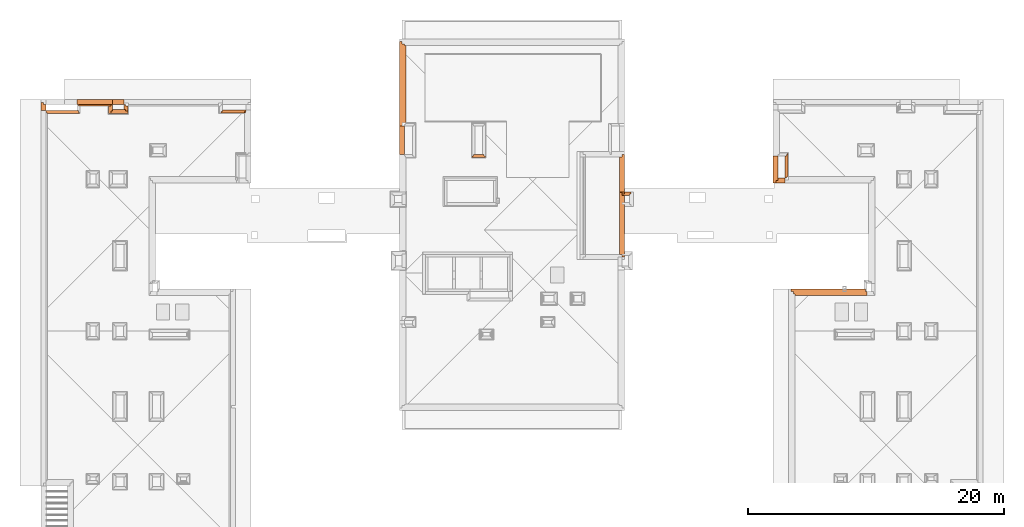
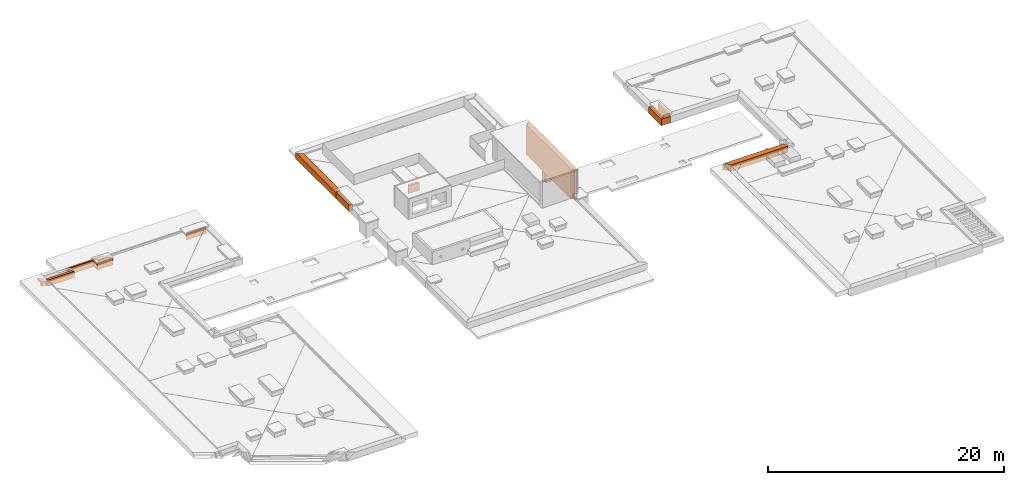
# One storey, part 12 of 16: 17 proxies.
"""IFC2X3 building model written with IfcOpenShell, lengths in millimetres."""

import ifcopenshell
import ifcopenshell.guid

model = None  # the IFC model being written
_history = None  # IfcOwnerHistory: only IFC2X3 demands one
_inside = {}  # id of a spatial element -> (the spatial element, [elements in it])
_under = {}  # id of a project, library or spatial element -> (it, [spatial elements below it])
_declared = {}  # id of a project -> (the project, [libraries it declares])
_typed = {}  # id of a type object -> (the type object, [elements of that type])
_made_of = {}  # id of a material, layer set ... -> (it, [elements and type objects made of it])


def new_model(schema):
    """Start an empty IFC model of exactly this schema.

    Asked for "IFC4X3", IfcOpenShell would pick the latest addendum, in which some entities
    have other attributes; the version numbers below select the first issue.
    IFC2X3 requires an IfcOwnerHistory on every rooted entity: one is made here for all.
    """
    global model, _history
    if schema == "IFC4X3":
        model = ifcopenshell.file(schema_version=(4, 3, 0, 0))
    else:
        model = ifcopenshell.file(schema=schema)
    _inside.clear()
    _under.clear()
    _declared.clear()
    _typed.clear()
    _made_of.clear()
    _history = None
    if model.schema == "IFC2X3":
        org = make("IfcOrganization", Name="unknown")
        user = make(
            "IfcPersonAndOrganization",
            ThePerson=make("IfcPerson", FamilyName="unknown"),
            TheOrganization=org,
        )
        app = make(
            "IfcApplication",
            ApplicationDeveloper=org,
            Version="unknown",
            ApplicationFullName="unknown",
            ApplicationIdentifier="unknown",
        )
        _history = make(
            "IfcOwnerHistory",
            OwningUser=user,
            OwningApplication=app,
            ChangeAction="ADDED",
            CreationDate=0,
        )
    return model


def make(cls, **values):
    """One entity of the class cls with the attributes given. An attribute that is None is left unset."""
    return model.create_entity(
        cls, **{name: value for name, value in values.items() if value is not None}
    )


def entity(cls, *values):
    """Any entity or typed value of the class cls, its attributes in the order of the schema. None: left unset."""
    e = model.create_entity(cls)
    for i, value in enumerate(values):
        if value is not None:
            e[i] = value
    return e


def rooted(cls, **values):
    """An entity with a GlobalId (a new one), such as an element, a storey or a relation."""
    return make(cls, GlobalId=ifcopenshell.guid.new(), OwnerHistory=_history, **values)


def si_unit(unit_type, name, prefix=None):
    """IfcSIUnit, for example si_unit("LENGTHUNIT", "METRE", prefix="MILLI")."""
    return make("IfcSIUnit", UnitType=unit_type, Prefix=prefix, Name=name)


def converted_unit(unit_type, name, factor, base, dimensions=None, offset=None):
    """IfcConversionBasedUnit, such as the inch: factor (a typed value) times the base unit."""
    return make(
        "IfcConversionBasedUnit"
        if offset is None
        else "IfcConversionBasedUnitWithOffset",
        ConversionOffset=offset,
        Dimensions=None
        if dimensions is None
        else entity("IfcDimensionalExponents", *dimensions),
        UnitType=unit_type,
        Name=name,
        ConversionFactor=make(
            "IfcMeasureWithUnit", ValueComponent=factor, UnitComponent=base
        ),
    )


def derived_unit(unit_type, elements):
    """IfcDerivedUnit: a product of units, each with its exponent."""
    return make(
        "IfcDerivedUnit",
        Elements=[
            make("IfcDerivedUnitElement", Unit=unit, Exponent=power)
            for unit, power in elements
        ],
        UnitType=unit_type,
    )


def money_unit(currency):
    """IfcMonetaryUnit."""
    return make("IfcMonetaryUnit", Currency=currency)


def assignment(units):
    """IfcUnitAssignment: the units of a project."""
    return None if units is None else make("IfcUnitAssignment", Units=units)


def point(xyz):
    """IfcCartesianPoint."""
    return None if xyz is None else make("IfcCartesianPoint", Coordinates=xyz)


def direction(xyz):
    """IfcDirection."""
    return None if xyz is None else make("IfcDirection", DirectionRatios=xyz)


def frame(location, z_axis=None, x_axis=None):
    """IfcAxis2Placement3D, a coordinate frame: its origin and axes. An axis left out is left unset."""
    return make(
        "IfcAxis2Placement3D",
        Location=point(location),
        Axis=direction(z_axis),
        RefDirection=direction(x_axis),
    )


def origin_with_axes():
    """The frame at (0, 0, 0) with the z axis (0, 0, 1) and the x axis (1, 0, 0) written out."""
    return frame((0.0, 0.0, 0.0), z_axis=(0.0, 0.0, 1.0), x_axis=(1.0, 0.0, 0.0))


def place(relative_to, where):
    """IfcLocalPlacement: puts the frame where relative to a parent placement (None: the world)."""
    return make(
        "IfcLocalPlacement", PlacementRelTo=relative_to, RelativePlacement=where
    )


def context(
    kind, dimensions, precision=None, world=None, true_north=None, identifier=None
):
    """IfcGeometricRepresentationContext, for example the 3D "Model" context."""
    return make(
        "IfcGeometricRepresentationContext",
        ContextIdentifier=identifier,
        ContextType=kind,
        CoordinateSpaceDimension=dimensions,
        Precision=precision,
        WorldCoordinateSystem=world,
        TrueNorth=true_north,
    )


def subcontext(parent, identifier, kind, view, scale=None):
    """IfcGeometricRepresentationSubContext, for example "Body" below "Model"."""
    return make(
        "IfcGeometricRepresentationSubContext",
        ContextIdentifier=identifier,
        ContextType=kind,
        ParentContext=parent,
        TargetScale=scale,
        TargetView=view,
    )


def project(units=None, contexts=None):
    """IfcProject with its units and contexts."""
    return rooted(
        "IfcProject",
        Name="project",
        RepresentationContexts=contexts,
        UnitsInContext=assignment(units),
    )


def spatial(cls, under=None, at=None, **own):
    """A site, building, storey or space (cls), placed at a placement, below another one or the project."""
    s = rooted(cls, ObjectPlacement=at, **own)
    if under is not None:
        _under.setdefault(under.id(), (under, []))[1].append(s)
    return s


def faces_of(points, faces, orient=None, outer=None):
    """IfcFace entities. A face is a list of loops; a loop is a list of indices into points, from 0.

    orient and outer hold one flag for each loop. By default every Orientation is true, the
    first loop of a face is its IfcFaceOuterBound and the others are IfcFaceBound.
    """
    made = []
    for i, loops in enumerate(faces):
        bounds = []
        for j, loop in enumerate(loops):
            is_outer = j == 0 if outer is None else outer[i][j]
            bounds.append(
                make(
                    "IfcFaceOuterBound" if is_outer else "IfcFaceBound",
                    Bound=make("IfcPolyLoop", Polygon=[points[k] for k in loop]),
                    Orientation=True if orient is None else orient[i][j],
                )
            )
        made.append(make("IfcFace", Bounds=bounds))
    return made


def faceted_brep(points, faces, orient=None, outer=None, voids=None):
    """IfcFacetedBrep: a solid bounded by flat faces; with voids (closed shells), ...WithVoids."""
    shared = [point(p) for p in points]
    hull = make("IfcClosedShell", CfsFaces=faces_of(shared, faces, orient, outer))
    if voids is None:
        return make("IfcFacetedBrep", Outer=hull)
    return make(
        "IfcFacetedBrepWithVoids",
        Outer=hull,
        Voids=[
            make(cls, CfsFaces=faces_of(shared, fs, o, b)) for cls, fs, o, b in voids
        ],
    )


def shape(context_of_items, identifier, shape_type, items):
    """IfcShapeRepresentation: the items that make up one representation, for example the "Body"."""
    return make(
        "IfcShapeRepresentation",
        ContextOfItems=context_of_items,
        RepresentationIdentifier=identifier,
        RepresentationType=shape_type,
        Items=items,
    )


def material(Name=None, Category=None):
    """IfcMaterial."""
    return make("IfcMaterial", Name=Name, Category=Category)


def material_list(materials):
    """IfcMaterialList."""
    return make("IfcMaterialList", Materials=materials)


def made_of(thing, what):
    """Note that an element or type object is made of a material, layer set ...; save() writes the relation."""
    if what is not None:
        _made_of.setdefault(what.id(), (what, []))[1].append(thing)
    return thing


def type_object(cls, material=None, **own):
    """A type object (cls), such as IfcWallType, which elements share."""
    return made_of(rooted(cls, **own), material)


def element(
    cls,
    number,
    at=None,
    inside=None,
    cuts=None,
    type_object=None,
    material=None,
    context=None,
    identifier="Body",
    shape_type=None,
    held_by="IfcProductDefinitionShape",
    body=None,
    shapes=None,
    **own,
):
    """One element of the class cls, such as IfcWall. Its Tag is "e" and its number.

    at: its placement. inside: the storey or other place that contains it. cuts: it is an
    opening in that element (IfcRelVoidsElement). A single representation is given by context,
    identifier, shape_type and body (its items); several are given by shapes. held_by: the class
    of the entity that holds the representations. save() writes the other relations.
    """
    e = rooted(cls, Tag="e%d" % number, ObjectPlacement=at, **own)
    if body is not None:
        shapes = [shape(context, identifier, shape_type, body)]
    if shapes is not None:
        e.Representation = make(held_by, Representations=shapes)
    if inside is not None:
        _inside.setdefault(inside.id(), (inside, []))[1].append(e)
    if cuts is not None:
        rooted(
            "IfcRelVoidsElement", RelatingBuildingElement=cuts, RelatedOpeningElement=e
        )
    if type_object is not None:
        _typed.setdefault(type_object.id(), (type_object, []))[1].append(e)
    return made_of(e, material)


def aggregate(whole, parts):
    """IfcRelAggregates: a whole, such as a stair, and the parts it consists of."""
    return rooted("IfcRelAggregates", RelatingObject=whole, RelatedObjects=parts)


def save(model, path):
    """Write the relations noted so far, then the file.

    IfcRelAggregates (storeys below a building ...), IfcRelContainedInSpatialStructure (elements
    in a storey), IfcRelDefinesByType, IfcRelAssociatesMaterial and IfcRelDeclares: one each for
    every whole, place, type object, material and project.
    """
    for whole, parts in _under.values():
        aggregate(whole, parts)
    for where, things in _inside.values():
        rooted(
            "IfcRelContainedInSpatialStructure",
            RelatedElements=things,
            RelatingStructure=where,
        )
    for kind, things in _typed.values():
        rooted("IfcRelDefinesByType", RelatedObjects=things, RelatingType=kind)
    for what, things in _made_of.values():
        rooted("IfcRelAssociatesMaterial", RelatedObjects=things, RelatingMaterial=what)
    for by, libraries in _declared.values():
        rooted("IfcRelDeclares", RelatingContext=by, RelatedDefinitions=libraries)
    model.write(path)


model = new_model("IFC2X3")

# Units and contexts
model_context = context("Model", 3, precision=0.01, world=origin_with_axes(), true_north=direction((0.34421633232, 0.938890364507)))
body_context = subcontext(model_context, "Body", "Model", "MODEL_VIEW")
ifc_project = project(units=[si_unit("LENGTHUNIT", "METRE", prefix="MILLI"), si_unit("AREAUNIT", "SQUARE_METRE"), si_unit("VOLUMEUNIT", "CUBIC_METRE"), converted_unit("PLANEANGLEUNIT", "DEGREE", entity("IfcPlaneAngleMeasure", 0.0174532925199), si_unit("PLANEANGLEUNIT", "RADIAN"), dimensions=[0, 0, 0, 0, 0, 0, 0]), si_unit("SOLIDANGLEUNIT", "STERADIAN"), money_unit("USD"), converted_unit("TIMEUNIT", "Year", entity("IfcTimeMeasure", 31556926.0), si_unit("TIMEUNIT", "SECOND"), dimensions=[0, 0, 1, 0, 0, 0, 0]), si_unit("MASSUNIT", "GRAM", prefix="KILO"), si_unit("THERMODYNAMICTEMPERATUREUNIT", "DEGREE_CELSIUS"), si_unit("LUMINOUSINTENSITYUNIT", "LUMEN"), si_unit("ENERGYUNIT", "JOULE", prefix="MEGA"), derived_unit("THERMALCONDUCTANCEUNIT", [(si_unit("POWERUNIT", "WATT"), 1), (si_unit("LENGTHUNIT", "METRE"), -1), (si_unit("THERMODYNAMICTEMPERATUREUNIT", "KELVIN"), -1)]), derived_unit("SPECIFICHEATCAPACITYUNIT", [(si_unit("ENERGYUNIT", "JOULE"), 1), (si_unit("MASSUNIT", "GRAM", prefix="KILO"), -1), (si_unit("THERMODYNAMICTEMPERATUREUNIT", "KELVIN"), -1)]), derived_unit("MASSDENSITYUNIT", [(si_unit("MASSUNIT", "GRAM", prefix="KILO"), 1), (si_unit("VOLUMEUNIT", "CUBIC_METRE"), -1)])], contexts=[model_context])

# Site, building, storey
site_placement = place(None, origin_with_axes())
site = spatial("IfcSite", under=ifc_project, at=site_placement, Name="USTRONIE MORSKIE", CompositionType="ELEMENT")
building_placement = place(site_placement, origin_with_axes())
building = spatial("IfcBuilding", under=site, at=building_placement, Name="Budynek", CompositionType="ELEMENT")
storey_placement = place(building_placement, frame((0.0, 0.0, 19000.0), z_axis=(0.0, 0.0, 1.0), x_axis=(1.0, 0.0, 0.0)))
storey = spatial("IfcBuildingStorey", under=building, at=storey_placement, Name="DACH", CompositionType="ELEMENT", Elevation=19000.0)

# Proxies
ifc_material_1 = material(Name="Tynk zewnętrzny")
ifc_material_2 = material(Name="Wełna ELEW")
ifc_material_3 = material(Name="Beton konstrukcyjny B25")
ifc_material_list_1 = material_list([ifc_material_1, ifc_material_2, ifc_material_3])
building_element_proxy_type_1 = type_object("IfcBuildingElementProxyType", Name="20+20 410", PredefinedType="NOTDEFINED")
proxy_1_placement = place(storey_placement, frame((396317.920919, 740641.199036, -160.0), z_axis=(0.0, 0.0, 1.0), x_axis=(0.0, -1.0, 0.0)))
element("IfcBuildingElementProxy", 1, at=proxy_1_placement, inside=storey, type_object=building_element_proxy_type_1, material=ifc_material_list_1, Name="SZ-01", context=body_context, shape_type="Brep", body=[
    faceted_brep([(7830.00252342, 300.0, 660.0), (7830.00252342, 310.0, 660.0), (7830.00252342, 310.0, 0.0), (7830.00252342, 300.0, 0.0), (8140.00005516, 310.0, 660.0), (8140.00005516, 300.0, 660.0), (8140.00005516, 310.0, 0.0), (8140.00005516, 300.0, 0.0)], [[[0, 1, 2, 3]], [[4, 1, 0, 5]], [[1, 4, 6, 2]], [[7, 3, 2, 6]], [[5, 0, 3, 7]], [[4, 5, 7, 6]]]),
    faceted_brep([(3139.99674808, 300.0, 660.0), (3139.99674808, 310.0, 660.0), (3139.99674808, 310.0, 0.0), (3139.99674808, 300.0, 0.0), (3690.0, 310.0, 660.0), (3690.0, 300.0, 660.0), (3690.0, 310.0, 0.0), (3690.0, 300.0, 0.0)], [[[0, 1, 2, 3]], [[4, 1, 0, 5]], [[1, 4, 6, 2]], [[7, 3, 2, 6]], [[5, 0, 3, 7]], [[4, 5, 7, 6]]]),
    faceted_brep([(4000.0, 310.0, 660.0), (4000.0, 310.0, 780.0), (2829.99674808, 310.0, 780.0), (2829.99674808, 310.0, 660.0), (2839.99674808, 310.0, 660.0), (2839.99674808, 310.0, 0.0), (-300.0, 310.0, 0.0), (-300.0, 310.0, 3090.00000098), (8140.00005516, 310.0, 3090.00000098), (8140.00005516, 310.0, 780.0), (7520.00252342, 310.0, 780.0), (7520.00252342, 310.0, 660.0), (7530.00252342, 310.0, 660.0), (7530.00252342, 310.0, 0.0), (3990.0, 310.0, 0.0), (3990.0, 310.0, 660.0), (4000.0, 300.0, 660.0), (4000.0, 300.0, 780.0), (2829.99674808, 300.0, 780.0), (2829.99674808, 300.0, 660.0), (2839.99674808, 300.0, 660.0), (2839.99674808, 300.0, 0.0), (-300.0, 300.0, 0.0), (-300.0, 300.0, 3090.00000098), (8140.00005516, 300.0, 3090.00000098), (8140.00005516, 300.0, 780.0), (7520.00252342, 300.0, 780.0), (7520.00252342, 300.0, 660.0), (7530.00252342, 300.0, 660.0), (7530.00252342, 300.0, 0.0), (3990.0, 300.0, 0.0), (3990.0, 300.0, 660.0)], [[[0, 1, 2, 3, 4, 5, 6, 7, 8, 9, 10, 11, 12, 13, 14, 15]], [[1, 0, 16, 17]], [[2, 1, 17, 18]], [[3, 2, 18, 19]], [[4, 3, 19, 20]], [[4, 20, 21, 5]], [[6, 5, 21, 22]], [[6, 22, 23, 7]], [[23, 24, 8, 7]], [[25, 9, 8, 24]], [[10, 9, 25, 26]], [[11, 10, 26, 27]], [[12, 11, 27, 28]], [[12, 28, 29, 13]], [[29, 30, 14, 13]], [[31, 15, 14, 30]], [[0, 15, 31, 16]], [[16, 31, 30, 29, 28, 27, 26, 25, 24, 23, 22, 21, 20, 19, 18, 17]]]),
    faceted_brep([(3690.0, 300.0, 0.0), (3139.99674808, 300.0, 0.0), (3139.99674808, 300.0, 660.0), (3019.99674808, 300.0, 660.0), (3019.99674808, 300.0, 0.0), (-100.0, 300.0, 0.0), (-100.0, 300.0, 3090.00000098), (7940.00005516, 300.0, 3090.00000098), (7940.00005516, 300.0, 0.0), (7830.00252342, 300.0, 0.0), (7830.00252342, 300.0, 660.0), (7710.00252342, 300.0, 660.0), (7710.00252342, 300.0, 0.0), (3810.0, 300.0, 0.0), (3810.0, 300.0, 660.0), (3690.0, 300.0, 660.0), (3690.0, 100.0, 0.0), (3139.99674808, 100.0, 0.0), (3139.99674808, 100.0, 660.0), (3019.99674808, 100.0, 660.0), (3019.99674808, 100.0, 0.0), (-100.0, 100.0, 0.0), (-100.0, 100.0, 3090.00000098), (7940.00005516, 100.0, 3090.00000098), (7940.00005516, 100.0, 0.0), (7830.00252342, 100.0, 0.0), (7830.00252342, 100.0, 660.0), (7710.00252342, 100.0, 660.0), (7710.00252342, 100.0, 0.0), (3810.0, 100.0, 0.0), (3810.0, 100.0, 660.0), (3690.0, 100.0, 660.0)], [[[0, 1, 2, 3, 4, 5, 6, 7, 8, 9, 10, 11, 12, 13, 14, 15]], [[16, 17, 1, 0]], [[18, 2, 1, 17]], [[19, 3, 2, 18]], [[20, 4, 3, 19]], [[5, 4, 20, 21]], [[5, 21, 22, 6]], [[22, 23, 7, 6]], [[8, 7, 23, 24]], [[24, 25, 9, 8]], [[26, 10, 9, 25]], [[27, 11, 10, 26]], [[28, 12, 11, 27]], [[28, 29, 13, 12]], [[30, 14, 13, 29]], [[31, 15, 14, 30]], [[16, 0, 15, 31]], [[19, 18, 17, 16, 31, 30, 29, 28, 27, 26, 25, 24, 23, 22, 21, 20]]]),
    faceted_brep([(7740.00005516, -100.0, 3090.00000098), (7740.00005516, 100.0, 3090.00000098), (100.0, 100.0, 3090.00000098), (100.0, -100.0, 3090.00000098), (7740.00005516, -100.0, 0.0), (7740.00005516, 100.0, 0.0), (100.0, 100.0, 0.0), (100.0, -100.0, 0.0)], [[[0, 1, 2, 3]], [[1, 0, 4, 5]], [[1, 5, 6, 2]], [[7, 3, 2, 6]], [[4, 0, 3, 7]], [[5, 4, 7, 6]]]),
])
ifc_material_4 = material(Name="Bloczki silikatowe")
ifc_material_list_2 = material_list([ifc_material_1, ifc_material_2, ifc_material_4, ifc_material_2, ifc_material_1])
building_element_proxy_type_2 = type_object("IfcBuildingElementProxyType", Name="18 SILIKAT+20-10 500", PredefinedType="NOTDEFINED")
proxy_2_placement = place(storey_placement, frame((356567.920018, 744801.199036, -160.0), z_axis=(0.0, 0.0, 1.0), x_axis=(-1.0, 0.0, 0.0)))
element("IfcBuildingElementProxy", 2, at=proxy_2_placement, inside=storey, type_object=building_element_proxy_type_2, material=ifc_material_list_2, Name="Œciana-006", context=body_context, shape_type="Brep", body=[
    faceted_brep([(320.0, 290.0, 5.0), (320.0, 280.0, 5.0), (320.0, 280.0, 660.0), (320.0, 290.0, 660.0), (2579.99909883, 280.0, 5.0), (2579.99909883, 290.0, 5.0), (2579.99909883, 280.0, 660.0), (2579.99909883, 290.0, 660.0)], [[[0, 1, 2, 3]], [[4, 1, 0, 5]], [[1, 4, 6, 2]], [[2, 6, 7, 3]], [[5, 0, 3, 7]], [[4, 5, 7, 6]]]),
    faceted_brep([(120.0, 280.0, 5.0), (120.0, 180.0, 5.0), (120.0, 180.0, 660.0), (120.0, 280.0, 660.0), (2679.99909883, 180.0, 5.0), (2679.99909883, 280.0, 5.0), (2679.99909883, 180.0, 660.0), (2679.99909883, 280.0, 660.0)], [[[0, 1, 2, 3]], [[4, 1, 0, 5]], [[1, 4, 6, 2]], [[2, 6, 7, 3]], [[5, 0, 3, 7]], [[4, 5, 7, 6]]]),
    faceted_brep([(2799.99909883, 0.0, 450.0), (0.0, 0.0, 450.0), (0.0, 0.0, 0.0), (2799.99909883, 0.0, 0.0), (0.0, 180.0, 450.0), (2799.99909883, 180.0, 450.0), (0.0, 180.0, 0.0), (2799.99909883, 180.0, 0.0)], [[[0, 1, 2, 3]], [[4, 1, 0, 5]], [[1, 4, 6, 2]], [[2, 6, 7, 3]], [[5, 0, 3, 7]], [[4, 5, 7, 6]]]),
    faceted_brep([(2799.99909883, -200.0, 450.0), (0.0, -200.0, 450.0), (0.0, -200.0, 0.0), (2679.99909883, -200.0, 0.0), (2679.99909883, -200.0, 210.0), (2799.99909883, -200.0, 210.0), (0.0, 0.0, 450.0), (2799.99909883, 0.0, 450.0), (0.0, 0.0, 0.0), (2679.99909883, 0.0, 0.0), (2679.99909883, 0.0, 210.0), (2799.99909883, 0.0, 210.0)], [[[0, 1, 2, 3, 4, 5]], [[6, 1, 0, 7]], [[1, 6, 8, 2]], [[8, 9, 3, 2]], [[10, 4, 3, 9]], [[11, 5, 4, 10]], [[7, 0, 5, 11]], [[6, 7, 11, 10, 9, 8]]]),
    faceted_brep([(2799.99909883, -210.0, 450.0), (0.0, -210.0, 450.0), (0.0, -210.0, 0.0), (2479.99909883, -210.0, 0.0), (2479.99909883, -210.0, 210.0), (2799.99909883, -210.0, 210.0), (0.0, -200.0, 450.0), (2799.99909883, -200.0, 450.0), (0.0, -200.0, 0.0), (2479.99909883, -200.0, 0.0), (2479.99909883, -200.0, 210.0), (2799.99909883, -200.0, 210.0)], [[[0, 1, 2, 3, 4, 5]], [[6, 1, 0, 7]], [[1, 6, 8, 2]], [[8, 9, 3, 2]], [[10, 4, 3, 9]], [[5, 4, 10, 11]], [[7, 0, 5, 11]], [[6, 7, 11, 10, 9, 8]]]),
])
proxy_3_placement = place(storey_placement, frame((379217.920919, 742941.199021, -160.0), z_axis=(0.0, 0.0, 1.0), x_axis=(0.0, 1.0, 0.0)))
element("IfcBuildingElementProxy", 3, at=proxy_3_placement, inside=storey, type_object=building_element_proxy_type_2, material=ifc_material_list_2, Name="Œciana-006", context=body_context, shape_type="Brep", body=[
    faceted_brep([(0.0, 200.0, 660.0), (6810.00001479, 200.0, 660.0), (6810.00001479, 210.0, 660.0), (0.0, 210.0, 660.0), (0.0, 200.0, 0.0), (6810.00001479, 200.0, 0.0), (6810.00001479, 210.0, 0.0), (0.0, 210.0, 0.0)], [[[0, 1, 2, 3]], [[4, 5, 1, 0]], [[2, 1, 5, 6]], [[3, 2, 6, 7]], [[4, 0, 3, 7]], [[7, 6, 5, 4]]]),
    faceted_brep([(0.0, 200.0, 660.0), (0.0, 0.0, 660.0), (6610.00001479, 1.13686837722e-10, 660.0), (6610.00001479, 200.0, 660.0), (0.0, 200.0, 0.0), (0.0, 0.0, 0.0), (6610.00001479, 1.13686837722e-10, 0.0), (6610.00001479, 200.0, 0.0)], [[[0, 1, 2, 3]], [[4, 5, 1, 0]], [[1, 5, 6, 2]], [[7, 3, 2, 6]], [[4, 0, 3, 7]], [[5, 4, 7, 6]]]),
    faceted_brep([(6430.00001479, 1.13686837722e-10, 660.0), (0.0, 0.0, 660.0), (0.0, -180.0, 660.0), (6430.00001479, -180.0, 660.0), (6430.00001479, 1.13686837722e-10, 0.0), (0.0, 0.0, 0.0), (0.0, -180.0, 0.0), (6430.00001479, -180.0, 0.0)], [[[0, 1, 2, 3]], [[4, 5, 1, 0]], [[1, 5, 6, 2]], [[3, 2, 6, 7]], [[7, 4, 0, 3]], [[7, 6, 5, 4]]]),
    faceted_brep([(6330.00001479, -280.0, 660.0), (120.0, -280.0, 660.0), (120.0, -280.0, 5.0), (6330.00001479, -280.0, 5.0), (6330.00001479, -180.0, 660.0), (120.0, -180.0, 660.0), (120.0, -180.0, 5.0), (6330.00001479, -180.0, 5.0)], [[[0, 1, 2, 3]], [[1, 0, 4, 5]], [[1, 5, 6, 2]], [[2, 6, 7, 3]], [[4, 0, 3, 7]], [[5, 4, 7, 6]]]),
    faceted_brep([(5619.99995682, -289.999732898, 519.11198998), (6320.00001479, -290.0, 533.11199114), (6320.00001479, -290.0, 660.0), (220.0, -290.0, 660.0), (220.0, -290.0, 519.11198675), (6320.00001479, -280.0, 533.11199114), (5629.99968971, -280.0, 519.311984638), (6320.00001479, -280.0, 660.0), (220.0, -280.0, 660.0), (220.0, -280.000237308, 519.311982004)], [[[0, 1, 2, 3, 4]], [[5, 1, 0, 6]], [[1, 5, 7, 2]], [[3, 2, 7, 8]], [[8, 9, 4, 3]], [[6, 0, 4, 9]], [[5, 6, 9, 8, 7]]]),
])
proxy_4_placement = place(storey_placement, frame((415587.920919, 730001.199019, -160.0), z_axis=(0.0, 0.0, 1.0), x_axis=(-1.0, 0.0, 0.0)))
element("IfcBuildingElementProxy", 4, at=proxy_4_placement, inside=storey, type_object=building_element_proxy_type_2, material=ifc_material_list_2, Name="Œciana-006", context=body_context, shape_type="Brep", body=[
    faceted_brep([(0.0, 290.0, 5.0), (0.0, 280.0, 5.0), (0.0, 280.0, 660.0), (0.0, 290.0, 660.0), (5630.0, 280.0, 5.0), (5630.0, 290.0, 5.0), (5630.0, 280.0, 660.0), (5630.0, 290.0, 660.0)], [[[0, 1, 2, 3]], [[4, 1, 0, 5]], [[1, 4, 6, 2]], [[3, 2, 6, 7]], [[5, 0, 3, 7]], [[4, 5, 7, 6]]]),
    faceted_brep([(0.0, 280.0, 5.0), (0.0, 180.0, 5.0), (0.0, 180.0, 660.0), (0.0, 280.0, 660.0), (5640.0, 180.0, 5.0), (5640.0, 280.0, 5.0), (5640.0, 180.0, 660.0), (5640.0, 280.0, 660.0)], [[[0, 1, 2, 3]], [[4, 1, 0, 5]], [[1, 4, 6, 2]], [[3, 2, 6, 7]], [[5, 0, 3, 7]], [[4, 5, 7, 6]]]),
    faceted_brep([(0.0, 0.0, 0.0), (0.0, 180.0, 0.0), (5740.0, 180.0, 0.0), (5740.0, 0.0, 0.0), (0.0, 0.0, 660.0), (0.0, 180.0, 660.0), (5740.0, 180.0, 660.0), (5740.0, 0.0, 660.0)], [[[0, 1, 2, 3]], [[4, 5, 1, 0]], [[1, 5, 6, 2]], [[7, 3, 2, 6]], [[4, 0, 3, 7]], [[5, 4, 7, 6]]]),
    faceted_brep([(120.0, 0.0, 660.0), (120.0, -200.0, 660.0), (5920.0, -200.0, 660.0), (5920.0, 0.0, 660.0), (120.0, -200.0, 3.73209019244e-07), (120.0, 0.0, 1.36530786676e-08), (5920.0, -200.0, 0.0), (5920.0, 0.0, 0.0)], [[[0, 1, 2, 3]], [[4, 1, 0, 5]], [[1, 4, 6, 2]], [[2, 6, 7, 3]], [[5, 0, 3, 7]], [[4, 5, 7, 6]]]),
    faceted_brep([(220.0, -200.0, 660.0), (220.0, -210.0, 660.0), (6120.0, -210.0, 660.0), (6120.0, -200.0, 660.0), (220.0, -210.0, 3.67741392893e-08), (220.0, -200.0, 1.34257049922e-08), (6120.0, -210.0, 0.0), (6120.0, -200.0, 0.0)], [[[0, 1, 2, 3]], [[4, 1, 0, 5]], [[1, 4, 6, 2]], [[2, 6, 7, 3]], [[5, 0, 3, 7]], [[4, 5, 7, 6]]]),
])
ifc_material_list_3 = material_list([ifc_material_1, ifc_material_2, ifc_material_4])
building_element_proxy_type_3 = type_object("IfcBuildingElementProxyType", Name="12+18_TERMO 310", PredefinedType="NOTDEFINED")
proxy_5_placement = place(storey_placement, frame((396317.920919, 737501.202288, -1334.99999829), z_axis=(0.0, 0.0, 1.0), x_axis=(1.0, 0.0, 0.0)))
element("IfcBuildingElementProxy", 5, at=proxy_5_placement, inside=storey, type_object=building_element_proxy_type_3, material=ifc_material_list_3, Name="Œciana-006", context=body_context, shape_type="Brep", body=[
    faceted_brep([(310.0, 310.0, 1174.99999829), (310.0, 310.0, 1834.99999829), (999.983179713, 310.0, 1834.99999829), (999.983179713, 310.0, 0.0), (-100.0, 310.0, 0.0), (-100.0, 310.0, 1174.99999829), (310.0, 300.0, 1174.99999829), (310.0, 300.0, 1834.99999829), (999.983179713, 300.0, 1834.99999829), (999.983179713, 300.0, 0.0), (-100.0, 300.0, 0.0), (-100.0, 300.0, 1174.99999829)], [[[0, 1, 2, 3, 4, 5]], [[6, 7, 1, 0]], [[2, 1, 7, 8]], [[9, 3, 2, 8]], [[3, 9, 10, 4]], [[10, 11, 5, 4]], [[11, 6, 0, 5]], [[7, 6, 11, 10, 9, 8]]]),
    faceted_brep([(-100.0, 300.0, 1174.99999829), (300.0, 300.0, 1174.99999829), (300.0, 300.0, 1834.99999829), (819.983179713, 300.0, 1834.99999829), (819.983179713, 300.0, 0.0), (-100.0, 300.0, 0.0), (-100.0, 249.997649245, 1174.99999829), (100.0, 249.997649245, 1174.99999829), (100.0, 120.0, 1174.99999829), (300.0, 120.0, 1174.99999829), (300.0, 120.0, 1834.99999829), (819.983179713, 120.0, 1834.99999829), (819.983179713, 120.0, 0.0), (100.0, 120.0, 0.0), (100.0, 249.997649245, 0.0), (-100.0, 249.997649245, 0.0)], [[[0, 1, 2, 3, 4, 5]], [[6, 7, 8, 9, 1, 0]], [[9, 10, 2, 1]], [[3, 2, 10, 11]], [[12, 4, 3, 11]], [[13, 14, 15, 5, 4, 12]], [[15, 6, 0, 5]], [[14, 7, 6, 15]], [[13, 8, 7, 14]], [[10, 9, 8, 13, 12, 11]]]),
    faceted_brep([(100.0, 120.0, 0.0), (100.0, 120.0, 1834.99999829), (699.983179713, 120.0, 1834.99999829), (699.983179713, 120.0, 0.0), (100.0, 0.0, 0.0), (100.0, 0.0, 1834.99999829), (699.983179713, 0.0, 1834.99999829), (699.983179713, 0.0, 0.0)], [[[0, 1, 2, 3]], [[4, 5, 1, 0]], [[2, 1, 5, 6]], [[7, 3, 2, 6]], [[7, 4, 0, 3]], [[6, 5, 4, 7]]]),
])
building_element_proxy_type_4 = type_object("IfcBuildingElementProxyType", Name="12+20 330", PredefinedType="NOTDEFINED")
proxy_6_placement = place(storey_placement, frame((356507.920018, 744191.199036, -160.0), z_axis=(0.0, 0.0, 1.0), x_axis=(0.0, 1.0, 0.0)))
element("IfcBuildingElementProxy", 6, at=proxy_6_placement, inside=storey, type_object=building_element_proxy_type_4, material=ifc_material_list_3, Name="Œciana-006", context=body_context, shape_type="Brep", body=[
    faceted_brep([(-270.0, 260.0, 5.0), (320.000000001, 260.0, 5.0), (320.000000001, 260.0, 660.0), (-270.0, 260.0, 660.0), (320.000000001, 270.0, 5.0), (-270.0, 270.0, 5.0), (320.000000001, 270.0, 660.0), (-270.0, 270.0, 660.0)], [[[0, 1, 2, 3]], [[4, 1, 0, 5]], [[1, 4, 6, 2]], [[2, 6, 7, 3]], [[5, 0, 3, 7]], [[4, 5, 7, 6]]]),
    faceted_brep([(-260.0, 60.0, 5.0), (330.000000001, 60.0, 5.0), (330.000000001, 60.0, 660.0), (-260.0, 60.0, 660.0), (330.000000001, 260.0, 5.0), (-260.0, 260.0, 5.0), (330.000000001, 260.0, 660.0), (-260.0, 260.0, 660.0)], [[[0, 1, 2, 3]], [[4, 1, 0, 5]], [[1, 4, 6, 2]], [[2, 6, 7, 3]], [[5, 0, 3, 7]], [[4, 5, 7, 6]]]),
    faceted_brep([(430.000000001, -60.0, 660.0), (430.000000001, 60.0, 660.0), (-59.9999999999, 60.0, 660.0), (-59.9999999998, -60.0, 660.0), (430.000000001, -60.0, 0.0), (430.000000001, 60.0, 0.0), (-59.9999999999, 60.0, 0.0), (-59.9999999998, -60.0, 0.0)], [[[0, 1, 2, 3]], [[1, 0, 4, 5]], [[1, 5, 6, 2]], [[7, 3, 2, 6]], [[4, 0, 3, 7]], [[5, 4, 7, 6]]]),
])
ifc_material_list_4 = material_list([ifc_material_4, ifc_material_2, ifc_material_1])
proxy_7_placement = place(storey_placement, frame((356507.920018, 744191.199036, -160.0), z_axis=(0.0, 0.0, 1.0), x_axis=(1.0, 0.0, 0.0)))
element("IfcBuildingElementProxy", 7, at=proxy_7_placement, inside=storey, type_object=building_element_proxy_type_4, material=ifc_material_list_4, Name="Œciana-006", context=body_context, shape_type="Brep", body=[
    faceted_brep([(1050.00090117, 59.9999999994, 0.0), (1050.00090117, -60.0000000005, 0.0), (59.9999999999, -60.0000000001, 0.0), (60.0, 59.9999999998, 0.0), (1050.00090117, 59.9999999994, 660.0), (1050.00090117, -60.0000000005, 660.0), (59.9999999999, -60.0000000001, 660.0), (60.0, 59.9999999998, 660.0)], [[[0, 1, 2, 3]], [[1, 0, 4, 5]], [[1, 5, 6, 2]], [[7, 3, 2, 6]], [[4, 0, 3, 7]], [[5, 4, 7, 6]]]),
    faceted_brep([(1250.00090117, -260.000000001, 5.0), (1250.00090117, -60.0000000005, 5.0), (1250.00090117, -60.0000000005, 660.0), (1250.00090117, -260.000000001, 660.0), (-60.0000000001, -59.9999999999, 5.0), (-60.0000000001, -260.0, 5.0), (-60.0000000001, -59.9999999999, 660.0), (-60.0000000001, -260.0, 660.0)], [[[0, 1, 2, 3]], [[4, 1, 0, 5]], [[1, 4, 6, 2]], [[3, 2, 6, 7]], [[5, 0, 3, 7]], [[4, 5, 7, 6]]]),
    faceted_brep([(1260.00090117, -270.000000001, 5.0), (1260.00090117, -260.000000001, 5.0), (1260.00090117, -260.000000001, 660.0), (1260.00090117, -270.000000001, 660.0), (-260.0, -260.0, 5.0), (-260.0, -270.0, 5.0), (-260.0, -260.0, 660.0), (-260.0, -270.0, 660.0)], [[[0, 1, 2, 3]], [[4, 1, 0, 5]], [[1, 4, 6, 2]], [[3, 2, 6, 7]], [[5, 0, 3, 7]], [[4, 5, 7, 6]]]),
])
proxy_8_placement = place(storey_placement, frame((357497.920919, 744191.199036, -160.0), z_axis=(0.0, 0.0, 1.0), x_axis=(0.0, 1.0, 0.0)))
element("IfcBuildingElementProxy", 8, at=proxy_8_placement, inside=storey, type_object=building_element_proxy_type_4, material=ifc_material_list_4, Name="Œciana-006", context=body_context, shape_type="Brep", body=[
    faceted_brep([(430.0, 60.0, 0.0), (430.0, -60.0, 0.0), (60.0000000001, -60.0, 0.0), (59.9999999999, 60.0, 0.0), (430.0, 60.0, 660.0), (430.0, -60.0, 660.0), (60.0000000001, -60.0, 660.0), (59.9999999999, 60.0, 660.0)], [[[0, 1, 2, 3]], [[1, 0, 4, 5]], [[1, 5, 6, 2]], [[7, 3, 2, 6]], [[4, 0, 3, 7]], [[5, 4, 7, 6]]]),
    faceted_brep([(-59.9999999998, -260.0, 5.0), (330.0, -260.0, 5.0), (330.0, -260.0, 660.0), (-59.9999999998, -260.0, 660.0), (330.0, -60.0, 5.0), (-59.9999999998, -60.0, 5.0), (330.0, -60.0, 660.0), (-59.9999999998, -60.0, 660.0)], [[[0, 1, 2, 3]], [[4, 1, 0, 5]], [[1, 4, 6, 2]], [[2, 6, 7, 3]], [[5, 0, 3, 7]], [[4, 5, 7, 6]]]),
    faceted_brep([(-260.0, -270.0, 5.0), (320.0, -270.0, 5.0), (320.0, -270.0, 660.0), (-260.0, -270.0, 660.0), (320.0, -260.0, 5.0), (-260.0, -260.0, 5.0), (320.0, -260.0, 660.0), (-260.0, -260.0, 660.0)], [[[0, 1, 2, 3]], [[4, 1, 0, 5]], [[1, 4, 6, 2]], [[2, 6, 7, 3]], [[5, 0, 3, 7]], [[4, 5, 7, 6]]]),
])
building_element_proxy_type_5 = type_object("IfcBuildingElementProxyType", Name="12+10 kominy 230", PredefinedType="NOTDEFINED")
proxy_9_placement = place(storey_placement, frame((365157.901749, 744201.199036, -160.0), z_axis=(0.0, 0.0, 1.0), x_axis=(1.0, 0.0, 0.0)))
element("IfcBuildingElementProxy", 9, at=proxy_9_placement, inside=storey, type_object=building_element_proxy_type_5, material=ifc_material_list_4, Name="Œciana-006", context=body_context, shape_type="Brep", body=[
    faceted_brep([(1830.01916964, -120.0, 660.0), (1830.01916964, -120.0, 210.0), (1830.01916964, 0.0, 210.0), (1830.01916964, 0.0, 660.0), (1810.01916964, -120.0, 0.0), (1810.01916964, -120.0, 210.0), (0.0, -120.0, 660.0), (0.0, -120.0, 0.0), (1810.01916964, 0.0, 210.0), (1810.01916964, 0.0, 0.0), (0.0, 0.0, 0.0), (0.0, 0.0, 660.0)], [[[0, 1, 2, 3]], [[4, 5, 1, 0, 6, 7]], [[5, 8, 2, 1]], [[2, 8, 9, 10, 11, 3]], [[6, 0, 3, 11]], [[4, 9, 8, 5]], [[7, 6, 11, 10]], [[10, 9, 4, 7]]]),
    faceted_brep([(1810.01916964, -220.0, 5.0), (1810.01916964, -120.0, 5.0), (1810.01916964, -120.0, 210.0), (1810.01916964, -220.0, 210.0), (-120.0, -120.0, 5.0), (-120.0, -220.0, 5.0), (-120.0, -120.0, 660.0), (1730.01916964, -120.0, 660.0), (1730.01916964, -120.0, 210.0), (1730.01916964, -220.0, 210.0), (1730.01916964, -220.0, 660.0), (-120.0, -220.0, 660.0)], [[[0, 1, 2, 3]], [[4, 1, 0, 5]], [[1, 4, 6, 7, 8, 2]], [[9, 3, 2, 8]], [[5, 0, 3, 9, 10, 11]], [[4, 5, 11, 6]], [[11, 10, 7, 6]], [[9, 8, 7, 10]]]),
    faceted_brep([(1810.01916964, -230.0, 5.0), (1810.01916964, -220.0, 5.0), (1810.01916964, -220.0, 210.0), (1810.01916964, -230.0, 210.0), (-220.0, -220.0, 5.0), (-220.0, -230.0, 5.0), (-220.0, -220.0, 660.0), (1720.01916964, -220.0, 660.0), (1720.01916964, -220.0, 210.0), (1720.01916964, -230.0, 210.0), (1720.01916964, -230.0, 660.0), (-220.0, -230.0, 660.0)], [[[0, 1, 2, 3]], [[4, 1, 0, 5]], [[1, 4, 6, 7, 8, 2]], [[9, 3, 2, 8]], [[5, 0, 3, 9, 10, 11]], [[4, 5, 11, 6]], [[11, 10, 7, 6]], [[9, 8, 7, 10]]]),
])
proxy_10_placement = place(storey_placement, frame((409167.920919, 740621.179476, -160.0), z_axis=(0.0, 0.0, 1.0), x_axis=(0.0, -1.0, 0.0)))
element("IfcBuildingElementProxy", 10, at=proxy_10_placement, inside=storey, type_object=building_element_proxy_type_5, material=ifc_material_list_3, Name="Œciana-006", context=body_context, shape_type="Brep", body=[
    faceted_brep([(1629.98043997, 230.0, 5.0), (-220.0, 230.0, 5.0), (-220.0, 230.0, 660.0), (1629.98043997, 230.0, 660.0), (-220.0, 220.0, 5.0), (1629.98043997, 220.0, 5.0), (-220.0, 220.0, 660.0), (1629.98043997, 220.0, 660.0)], [[[0, 1, 2, 3]], [[4, 1, 0, 5]], [[1, 4, 6, 2]], [[6, 7, 3, 2]], [[5, 0, 3, 7]], [[4, 5, 7, 6]]]),
    faceted_brep([(1639.98043997, 220.0, 5.0), (-120.0, 220.0, 5.0), (-120.0, 220.0, 660.0), (1639.98043997, 220.0, 660.0), (-120.0, 120.0, 5.0), (1639.98043997, 120.0, 5.0), (-120.0, 120.0, 660.0), (1639.98043997, 120.0, 660.0)], [[[0, 1, 2, 3]], [[4, 1, 0, 5]], [[1, 4, 6, 2]], [[6, 7, 3, 2]], [[5, 0, 3, 7]], [[4, 5, 7, 6]]]),
    faceted_brep([(0.0, 0.0, 660.0), (1739.98043997, 0.0, 660.0), (1739.98043997, 120.0, 660.0), (0.0, 120.0, 660.0), (0.0, 0.0, 0.0), (1739.98043997, 0.0, 0.0), (1739.98043997, 120.0, 0.0), (0.0, 120.0, 0.0)], [[[0, 1, 2, 3]], [[4, 5, 1, 0]], [[5, 6, 2, 1]], [[3, 2, 6, 7]], [[4, 0, 3, 7]], [[7, 6, 5, 4]]]),
])
proxy_11_placement = place(storey_placement, frame((353827.920919, 744151.199036, -160.0), z_axis=(0.0, 0.0, 1.0), x_axis=(-1.0, 0.0, 0.0)))
element("IfcBuildingElementProxy", 11, at=proxy_11_placement, inside=storey, type_object=building_element_proxy_type_5, material=ifc_material_list_3, Name="Œciana-006", context=body_context, shape_type="Brep", body=[
    faceted_brep([(-170.0, 230.0, 5.0), (-170.0, 220.0, 5.0), (-170.0, 220.0, 660.0), (-170.0, 230.0, 660.0), (2370.0, 220.0, 5.0), (2370.0, 230.0, 5.0), (2370.0, 220.0, 660.0), (2370.0, 230.0, 660.0)], [[[0, 1, 2, 3]], [[4, 1, 0, 5]], [[1, 4, 6, 2]], [[2, 6, 7, 3]], [[5, 0, 3, 7]], [[4, 5, 7, 6]]]),
    faceted_brep([(-160.0, 220.0, 5.0), (-160.0, 120.0, 5.0), (-160.0, 120.0, 660.0), (-160.0, 220.0, 660.0), (2380.0, 120.0, 5.0), (2380.0, 220.0, 5.0), (2380.0, 120.0, 660.0), (2380.0, 220.0, 660.0)], [[[0, 1, 2, 3]], [[4, 1, 0, 5]], [[1, 4, 6, 2]], [[2, 6, 7, 3]], [[5, 0, 3, 7]], [[4, 5, 7, 6]]]),
    faceted_brep([(-60.0, 0.0, 0.0), (2480.0, 0.0, 0.0), (2480.0, 0.0, 660.0), (-60.0, 0.0, 660.0), (-60.0, 120.0, 0.0), (2480.0, 120.0, 0.0), (2480.0, 120.0, 660.0), (-60.0, 120.0, 660.0)], [[[0, 1, 2, 3]], [[4, 5, 1, 0]], [[5, 6, 2, 1]], [[3, 2, 6, 7]], [[4, 0, 3, 7]], [[7, 6, 5, 4]]]),
])
proxy_12_placement = place(storey_placement, frame((384917.920919, 740721.199036, -159.999998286), z_axis=(0.0, 0.0, 1.0), x_axis=(1.0, 0.0, 0.0)))
element("IfcBuildingElementProxy", 12, at=proxy_12_placement, inside=storey, type_object=building_element_proxy_type_5, material=ifc_material_list_4, Name="Œciana-006", context=body_context, shape_type="Brep", body=[
    faceted_brep([(720.003407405, 0.0, 0.0), (720.003407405, -120.0, 0.0), (-120.0, -120.0, 0.0), (-120.0, 0.0, 0.0), (720.003407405, 0.0, 800.0), (720.003407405, -120.0, 800.0), (-120.0, -120.0, 800.0), (-120.0, 0.0, 800.0)], [[[0, 1, 2, 3]], [[1, 0, 4, 5]], [[1, 5, 6, 2]], [[7, 3, 2, 6]], [[4, 0, 3, 7]], [[5, 4, 7, 6]]]),
    faceted_brep([(820.003407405, -220.0, 4.99999828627), (820.003407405, -120.0, 4.99999828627), (820.003407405, -120.0, 800.0), (820.003407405, -220.0, 800.0), (-220.0, -120.0, 4.99999828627), (-220.0, -220.0, 4.99999828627), (-220.0, -120.0, 800.0), (-220.0, -220.0, 800.0)], [[[0, 1, 2, 3]], [[4, 1, 0, 5]], [[1, 4, 6, 2]], [[3, 2, 6, 7]], [[5, 0, 3, 7]], [[4, 5, 7, 6]]]),
    faceted_brep([(830.003407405, -230.0, 4.99999828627), (830.003407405, -220.0, 4.99999828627), (830.003407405, -220.0, 800.0), (830.003407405, -230.0, 800.0), (-230.0, -220.0, 4.99999828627), (-230.0, -230.0, 4.99999828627), (-230.0, -220.0, 800.0), (-230.0, -230.0, 800.0)], [[[0, 1, 2, 3]], [[4, 1, 0, 5]], [[1, 4, 6, 2]], [[3, 2, 6, 7]], [[5, 0, 3, 7]], [[4, 5, 7, 6]]]),
])
building_element_proxy_type_6 = type_object("IfcBuildingElementProxyType", Name="18 SILIKAT+20 390", PredefinedType="NOTDEFINED")
proxy_13_placement = place(storey_placement, frame((351167.920919, 744151.199036, -160.0), z_axis=(0.0, 0.0, 1.0), x_axis=(0.0, 1.0, 0.0)))
element("IfcBuildingElementProxy", 13, at=proxy_13_placement, inside=storey, type_object=building_element_proxy_type_6, material=ifc_material_list_3, Name="SZ-01", context=body_context, shape_type="Brep", body=[
    faceted_brep([(850.000000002, 210.0, 450.0), (850.000000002, 200.0, 450.0), (850.000000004, 200.0, 210.000001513), (850.000000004, 210.0, 210.000001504), (0.0, 200.0, 450.0), (0.0, 210.0, 450.0), (0.0, 200.0, 0.0), (340.000000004, 200.0, 0.0), (340.000000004, 200.0, 210.000001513), (340.000000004, 210.0, 210.000001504), (340.000000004, 210.0, 0.0), (0.0, 210.0, 0.0)], [[[0, 1, 2, 3]], [[4, 1, 0, 5]], [[1, 4, 6, 7, 8, 2]], [[3, 2, 8, 9]], [[5, 0, 3, 9, 10, 11]], [[4, 5, 11, 6]], [[11, 10, 7, 6]], [[9, 8, 7, 10]]]),
    faceted_brep([(650.000000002, 200.0, 450.0), (650.000000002, 0.0, 450.0), (650.000000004, 0.0, 210.000001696), (650.000000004, 200.0, 210.000001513), (0.0, 0.0, 450.0), (0.0, 200.0, 450.0), (0.0, 0.0, 0.0), (350.000000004, 0.0, 0.0), (350.000000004, 0.0, 210.000001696), (350.000000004, 200.0, 210.000001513), (350.000000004, 200.0, 0.0), (0.0, 200.0, 0.0)], [[[0, 1, 2, 3]], [[4, 1, 0, 5]], [[1, 4, 6, 7, 8, 2]], [[3, 2, 8, 9]], [[5, 0, 3, 9, 10, 11]], [[4, 5, 11, 6]], [[11, 10, 7, 6]], [[9, 8, 7, 10]]]),
    faceted_brep([(470.0, 0.0, 450.0), (470.0, -180.0, 450.0), (470.0, -180.0, 0.0), (470.0, -100.0, 0.0), (470.0, -100.0, 210.000001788), (470.0, 0.0, 210.000001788), (0.0, -180.0, 450.0), (0.0, 0.0, 450.0), (0.0, -180.0, 0.0), (450.000000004, 0.0, 0.0), (450.000000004, -100.0, 0.0), (0.0, 0.0, 0.0), (450.000000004, -100.0, 210.000001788), (450.000000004, 0.0, 210.000001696)], [[[0, 1, 2, 3, 4, 5]], [[6, 1, 0, 7]], [[1, 6, 8, 2]], [[9, 10, 3, 2, 8, 11]], [[12, 4, 3, 10]], [[13, 5, 4, 12]], [[7, 0, 5, 13, 9, 11]], [[6, 7, 11, 8]], [[12, 10, 9, 13]]]),
])
proxy_14_placement = place(storey_placement, frame((408467.920919, 740621.179476, -160.0), z_axis=(0.0, 0.0, 1.0), x_axis=(0.0, -1.0, 0.0)))
element("IfcBuildingElementProxy", 14, at=proxy_14_placement, inside=storey, type_object=building_element_proxy_type_6, material=ifc_material_list_4, Name="Œciana-006", context=body_context, shape_type="Brep", body=[
    faceted_brep([(1919.98043997, 0.0, 0.0), (0.0, 0.0, 0.0), (0.0, 180.0, 0.0), (1919.98043997, 180.0, 0.0), (1919.98043997, 0.0, 660.0), (0.0, 0.0, 660.0), (0.0, 180.0, 660.0), (1919.98043997, 180.0, 660.0)], [[[0, 1, 2, 3]], [[4, 5, 1, 0]], [[1, 5, 6, 2]], [[3, 2, 6, 7]], [[7, 4, 0, 3]], [[7, 6, 5, 4]]]),
    faceted_brep([(0.0, 0.0, 0.0), (2119.98043997, 0.0, 0.0), (2119.98043997, -200.0, 0.0), (0.0, -200.0, 0.0), (0.0, 0.0, 660.0), (2119.98043997, 0.0, 660.0), (2119.98043997, -200.0, 660.0), (0.0, -200.0, 660.0)], [[[0, 1, 2, 3]], [[4, 5, 1, 0]], [[2, 1, 5, 6]], [[3, 2, 6, 7]], [[4, 0, 3, 7]], [[7, 6, 5, 4]]]),
    faceted_brep([(0.0, -200.0, 0.0), (2129.98043997, -200.0, 0.0), (2129.98043997, -210.0, 0.0), (0.0, -210.0, 0.0), (0.0, -200.0, 660.0), (2129.98043997, -200.0, 660.0), (2129.98043997, -210.0, 660.0), (0.0, -210.0, 660.0)], [[[0, 1, 2, 3]], [[4, 5, 1, 0]], [[2, 1, 5, 6]], [[3, 2, 6, 7]], [[4, 0, 3, 7]], [[7, 6, 5, 4]]]),
])
proxy_15_placement = place(storey_placement, frame((409167.920919, 738701.199036, -160.0), z_axis=(0.0, 0.0, 1.0), x_axis=(-1.0, 0.0, 0.0)))
element("IfcBuildingElementProxy", 15, at=proxy_15_placement, inside=storey, type_object=building_element_proxy_type_6, material=ifc_material_list_3, Name="Œciana-006", context=body_context, shape_type="Brep", body=[
    faceted_brep([(0.0, 200.0, 660.0), (900.0, 200.0, 660.0), (900.0, 210.0, 660.0), (0.0, 210.0, 660.0), (0.0, 200.0, 0.0), (900.0, 200.0, 0.0), (900.0, 210.0, 0.0), (0.0, 210.0, 0.0)], [[[0, 1, 2, 3]], [[4, 5, 1, 0]], [[2, 1, 5, 6]], [[3, 2, 6, 7]], [[4, 0, 3, 7]], [[7, 6, 5, 4]]]),
    faceted_brep([(0.0, 0.0, 660.0), (700.0, 0.0, 660.0), (700.0, 200.0, 660.0), (0.0, 200.0, 660.0), (0.0, 0.0, 0.0), (700.0, 0.0, 0.0), (700.0, 200.0, 0.0), (0.0, 200.0, 0.0)], [[[0, 1, 2, 3]], [[4, 5, 1, 0]], [[2, 1, 5, 6]], [[3, 2, 6, 7]], [[4, 0, 3, 7]], [[7, 6, 5, 4]]]),
    faceted_brep([(520.0, 0.0, 660.0), (0.0, 0.0, 660.0), (0.0, -180.0, 660.0), (520.0, -180.0, 660.0), (520.0, 0.0, 0.0), (0.0, 0.0, 0.0), (0.0, -180.0, 0.0), (520.0, -180.0, 0.0)], [[[0, 1, 2, 3]], [[4, 5, 1, 0]], [[1, 5, 6, 2]], [[3, 2, 6, 7]], [[7, 4, 0, 3]], [[7, 6, 5, 4]]]),
])
proxy_16_placement = place(storey_placement, frame((357437.920919, 744801.199036, -160.0), z_axis=(0.0, 0.0, 1.0), x_axis=(-1.0, 0.0, 0.0)))
element("IfcBuildingElementProxy", 16, at=proxy_16_placement, inside=storey, type_object=building_element_proxy_type_6, material=ifc_material_list_4, Name="Œciana-006", context=body_context, shape_type="Brep", body=[
    faceted_brep([(870.00090117, 0.0, 450.0), (0.0, 0.0, 450.0), (0.0, 0.0, 0.0), (870.00090117, 0.0, 0.0), (0.0, 180.0, 450.0), (870.00090117, 180.0, 450.0), (0.0, 180.0, 0.0), (870.00090117, 180.0, 0.0)], [[[0, 1, 2, 3]], [[4, 1, 0, 5]], [[1, 4, 6, 2]], [[6, 7, 3, 2]], [[5, 0, 3, 7]], [[4, 5, 7, 6]]]),
    faceted_brep([(870.00090117, -200.0, 450.0), (0.0, -200.0, 450.0), (0.0, -200.0, 0.0), (870.00090117, -200.0, 0.0), (0.0, 0.0, 450.0), (870.00090117, 0.0, 450.0), (0.0, 0.0, 0.0), (870.00090117, 0.0, 0.0)], [[[0, 1, 2, 3]], [[4, 1, 0, 5]], [[1, 4, 6, 2]], [[6, 7, 3, 2]], [[5, 0, 3, 7]], [[4, 5, 7, 6]]]),
    faceted_brep([(870.00090117, -210.0, 450.0), (0.0, -210.0, 450.0), (0.0, -210.0, 0.0), (870.00090117, -210.0, 0.0), (0.0, -200.0, 450.0), (870.00090117, -200.0, 450.0), (0.0, -200.0, 0.0), (870.00090117, -200.0, 0.0)], [[[0, 1, 2, 3]], [[4, 1, 0, 5]], [[1, 4, 6, 2]], [[6, 7, 3, 2]], [[5, 0, 3, 7]], [[4, 5, 7, 6]]]),
])
proxy_17_placement = place(storey_placement, frame((379217.920919, 740721.199036, -160.0), z_axis=(0.0, 0.0, 1.0), x_axis=(0.0, 1.0, 0.0)))
element("IfcBuildingElementProxy", 17, at=proxy_17_placement, inside=storey, type_object=building_element_proxy_type_6, material=ifc_material_list_3, Name="Œciana-006", context=body_context, shape_type="Brep", body=[
    faceted_brep([(0.0, 200.0, 660.0), (2219.99998521, 200.0, 660.0), (2219.99998521, 210.0, 660.0), (0.0, 210.0, 660.0), (0.0, 200.0, 0.0), (2219.99998521, 200.0, 0.0), (2219.99998521, 210.0, 0.0), (0.0, 210.0, 0.0)], [[[0, 1, 2, 3]], [[4, 5, 1, 0]], [[2, 1, 5, 6]], [[3, 2, 6, 7]], [[4, 0, 3, 7]], [[7, 6, 5, 4]]]),
    faceted_brep([(0.0, 200.0, 660.0), (0.0, 0.0, 660.0), (2219.99998521, 0.0, 660.0), (2219.99998521, 200.0, 660.0), (0.0, 200.0, 0.0), (0.0, 0.0, 0.0), (2219.99998521, 0.0, 0.0), (2219.99998521, 200.0, 0.0)], [[[0, 1, 2, 3]], [[4, 5, 1, 0]], [[1, 5, 6, 2]], [[7, 3, 2, 6]], [[4, 0, 3, 7]], [[5, 4, 7, 6]]]),
    faceted_brep([(2219.99998521, 0.0, 660.0), (0.0, 0.0, 660.0), (0.0, -180.0, 660.0), (2219.99998521, -180.0, 660.0), (2219.99998521, 0.0, 0.0), (0.0, 0.0, 0.0), (0.0, -180.0, 0.0), (2219.99998521, -180.0, 0.0)], [[[0, 1, 2, 3]], [[4, 5, 1, 0]], [[1, 5, 6, 2]], [[3, 2, 6, 7]], [[7, 4, 0, 3]], [[7, 6, 5, 4]]]),
])

save(model, "model.ifc")
